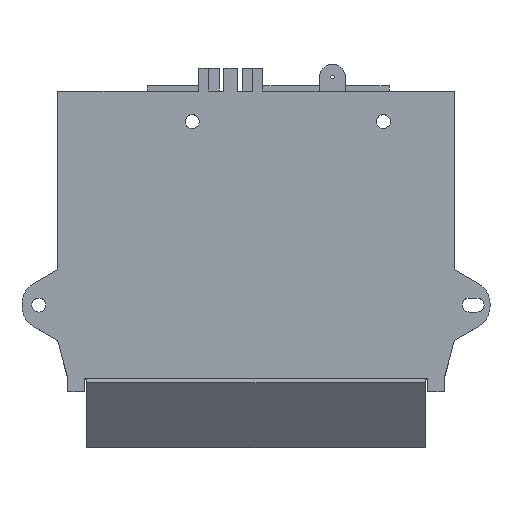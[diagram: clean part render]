
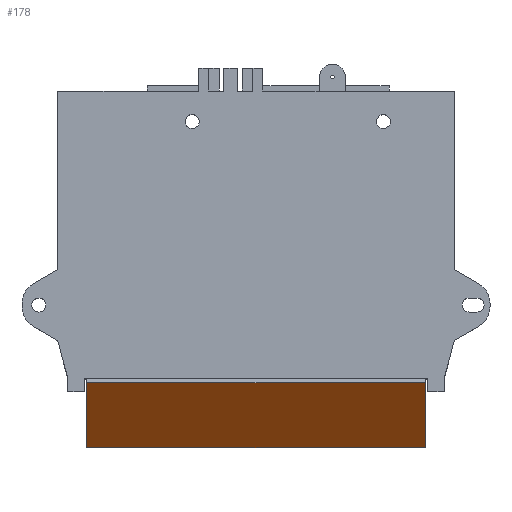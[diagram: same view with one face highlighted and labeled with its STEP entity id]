
A CAD part, top view. The second image highlights one B-rep face of the part: STEP entity #178.
In plain terms, the highlighted planar face has unit normal (0, -0.643, 0.766).
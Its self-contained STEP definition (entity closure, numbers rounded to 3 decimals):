
#178 = ADVANCED_FACE( '', ( #391 ), #392, .F. );
#391 = FACE_OUTER_BOUND( '', #650, .T. );
#392 = PLANE( '', #651 );
#650 = EDGE_LOOP( '', ( #1064, #1065, #1066, #1067 ) );
#651 = AXIS2_PLACEMENT_3D( '', #1068, #1069, #1070 );
#1064 = ORIENTED_EDGE( '', *, *, #1703, .T. );
#1065 = ORIENTED_EDGE( '', *, *, #1704, .F. );
#1066 = ORIENTED_EDGE( '', *, *, #1576, .F. );
#1067 = ORIENTED_EDGE( '', *, *, #1648, .T. );
#1068 = CARTESIAN_POINT( '', ( 151.55, -30.512, 7.498 ) );
#1069 = DIRECTION( '', ( 0., 0.643, -0.766 ) );
#1070 = DIRECTION( '', ( 0., 0.766, 0.643 ) );
#1576 = EDGE_CURVE( '', #1882, #1884, #1885, .T. );
#1648 = EDGE_CURVE( '', #1882, #2009, #2011, .T. );
#1703 = EDGE_CURVE( '', #2009, #2089, #2090, .T. );
#1704 = EDGE_CURVE( '', #1884, #2089, #2091, .T. );
#1882 = VERTEX_POINT( '', #2338 );
#1884 = VERTEX_POINT( '', #2341 );
#1885 = LINE( '', #2342, #2343 );
#2009 = VERTEX_POINT( '', #2519 );
#2011 = LINE( '', #2522, #2523 );
#2089 = VERTEX_POINT( '', #2641 );
#2090 = LINE( '', #2642, #2643 );
#2091 = LINE( '', #2644, #2645 );
#2338 = CARTESIAN_POINT( '', ( 151.55, -30.512, 7.498 ) );
#2341 = CARTESIAN_POINT( '', ( 151.55, -55.952, -13.849 ) );
#2342 = CARTESIAN_POINT( '', ( 151.55, -30.512, 7.498 ) );
#2343 = VECTOR( '', #2967, 1000. );
#2519 = CARTESIAN_POINT( '', ( 18.85, -30.512, 7.498 ) );
#2522 = CARTESIAN_POINT( '', ( 151.55, -30.512, 7.498 ) );
#2523 = VECTOR( '', #3039, 1000. );
#2641 = CARTESIAN_POINT( '', ( 18.85, -55.952, -13.849 ) );
#2642 = CARTESIAN_POINT( '', ( 18.85, -30.512, 7.498 ) );
#2643 = VECTOR( '', #3080, 1000. );
#2644 = CARTESIAN_POINT( '', ( 151.55, -55.952, -13.849 ) );
#2645 = VECTOR( '', #3081, 1000. );
#2967 = DIRECTION( '', ( 0., -0.766, -0.643 ) );
#3039 = DIRECTION( '', ( -1., 0., 0. ) );
#3080 = DIRECTION( '', ( 0., -0.766, -0.643 ) );
#3081 = DIRECTION( '', ( -1., 0., 0. ) );
